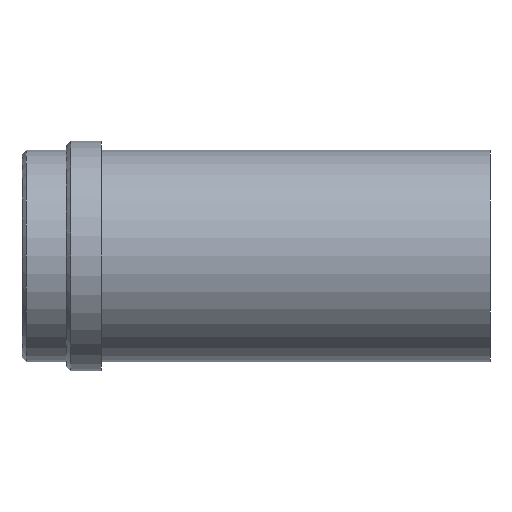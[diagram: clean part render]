
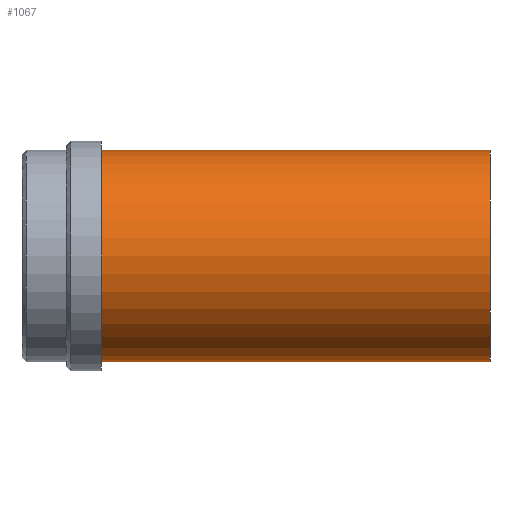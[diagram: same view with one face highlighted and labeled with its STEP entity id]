
A CAD part, front view. The second image highlights one B-rep face of the part: STEP entity #1067.
In plain terms, the highlighted cylindrical face has radius 24 mm (diameter 48 mm), a partial arc.
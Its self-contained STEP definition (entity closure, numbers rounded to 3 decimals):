
#953=CARTESIAN_POINT('Vertex',(0.,0.,-24.)) ;
#958=CARTESIAN_POINT('Axis2P3D Location',(0.,0.,0.)) ;
#962=CARTESIAN_POINT('Vertex',(0.,-24.,0.)) ;
#965=CARTESIAN_POINT('Axis2P3D Location',(0.,0.,0.)) ;
#969=CARTESIAN_POINT('Vertex',(0.,0.,24.)) ;
#995=CARTESIAN_POINT('Vertex',(88.,0.,24.)) ;
#998=CARTESIAN_POINT('Axis2P3D Location',(88.,0.,0.)) ;
#1002=CARTESIAN_POINT('Vertex',(88.,-24.,0.)) ;
#1005=CARTESIAN_POINT('Axis2P3D Location',(88.,0.,0.)) ;
#1009=CARTESIAN_POINT('Vertex',(88.,0.,-24.)) ;
#1035=CARTESIAN_POINT('Line Origine',(88.,0.,24.)) ;
#1040=CARTESIAN_POINT('Line Origine',(88.,0.,-24.)) ;
#1054=CARTESIAN_POINT('Axis2P3D Location',(88.,0.,0.)) ;
#959=DIRECTION('Axis2P3D Direction',(1.,0.,-0.)) ;
#966=DIRECTION('Axis2P3D Direction',(1.,0.,-0.)) ;
#999=DIRECTION('Axis2P3D Direction',(1.,0.,-0.)) ;
#1006=DIRECTION('Axis2P3D Direction',(1.,0.,-0.)) ;
#1036=DIRECTION('Vector Direction',(-1.,0.,0.)) ;
#1041=DIRECTION('Vector Direction',(-1.,0.,0.)) ;
#1055=DIRECTION('Axis2P3D Direction',(-1.,-0.,-0.)) ;
#1056=DIRECTION('Axis2P3D XDirection',(0.,0.,-1.)) ;
#960=AXIS2_PLACEMENT_3D('Circle Axis2P3D',#958,#959,$) ;
#967=AXIS2_PLACEMENT_3D('Circle Axis2P3D',#965,#966,$) ;
#1000=AXIS2_PLACEMENT_3D('Circle Axis2P3D',#998,#999,$) ;
#1007=AXIS2_PLACEMENT_3D('Circle Axis2P3D',#1005,#1006,$) ;
#1057=AXIS2_PLACEMENT_3D('Cylinder Axis2P3D',#1054,#1055,#1056) ;
#1060=ORIENTED_EDGE('',*,*,#1044,.T.) ;
#1061=ORIENTED_EDGE('',*,*,#1011,.F.) ;
#1062=ORIENTED_EDGE('',*,*,#1004,.F.) ;
#1063=ORIENTED_EDGE('',*,*,#1039,.T.) ;
#1064=ORIENTED_EDGE('',*,*,#971,.T.) ;
#1065=ORIENTED_EDGE('',*,*,#964,.T.) ;
#1037=VECTOR('Line Direction',#1036,1.) ;
#1042=VECTOR('Line Direction',#1041,1.) ;
#1067=ADVANCED_FACE('358-40X106',(#1066),#1058,.T.) ;
#961=CIRCLE('generated circle',#960,24.) ;
#968=CIRCLE('generated circle',#967,24.) ;
#1001=CIRCLE('generated circle',#1000,24.) ;
#1008=CIRCLE('generated circle',#1007,24.) ;
#1058=CYLINDRICAL_SURFACE('generated cylinder',#1057,24.) ;
#964=EDGE_CURVE('',#963,#954,#961,.T.) ;
#971=EDGE_CURVE('',#970,#963,#968,.T.) ;
#1004=EDGE_CURVE('',#996,#1003,#1001,.T.) ;
#1011=EDGE_CURVE('',#1003,#1010,#1008,.T.) ;
#1039=EDGE_CURVE('',#996,#970,#1038,.T.) ;
#1044=EDGE_CURVE('',#954,#1010,#1043,.F.) ;
#1059=EDGE_LOOP('',(#1060,#1061,#1062,#1063,#1064,#1065)) ;
#1066=FACE_OUTER_BOUND('',#1059,.T.) ;
#1038=LINE('Line',#1035,#1037) ;
#1043=LINE('Line',#1040,#1042) ;
#954=VERTEX_POINT('',#953) ;
#963=VERTEX_POINT('',#962) ;
#970=VERTEX_POINT('',#969) ;
#996=VERTEX_POINT('',#995) ;
#1003=VERTEX_POINT('',#1002) ;
#1010=VERTEX_POINT('',#1009) ;
